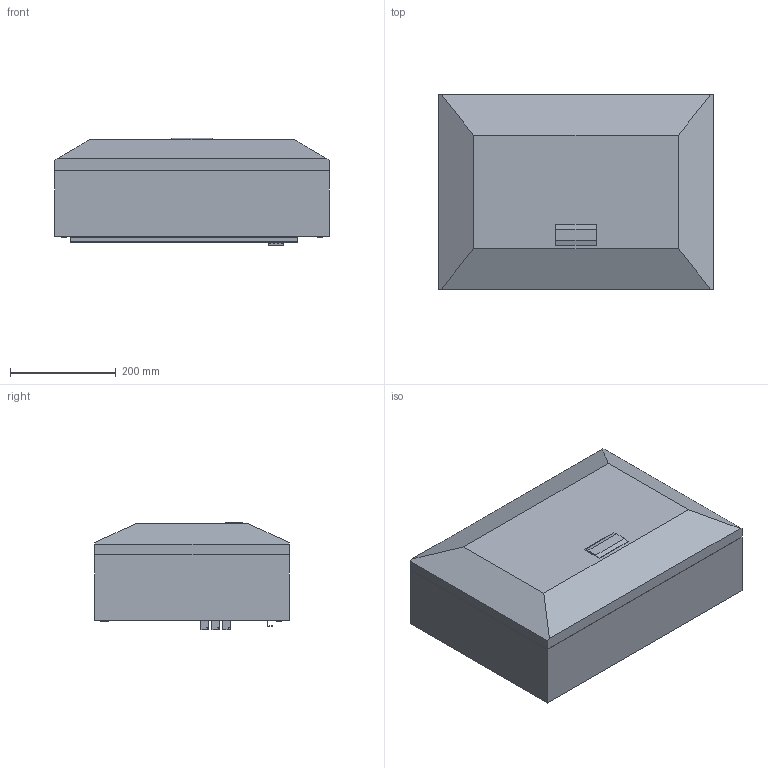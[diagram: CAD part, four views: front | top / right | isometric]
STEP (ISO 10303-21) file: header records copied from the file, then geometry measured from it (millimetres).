
FILE_DESCRIPTION((''),'2;1');
FILE_NAME('KG8505-400V-240222_ASM','2024-02-22T15:52:12',('briang'),(''),'CREO PARAMETRIC BY PTC INC, 2023294','CREO PARAMETRIC BY PTC INC, 2023294','');
FILE_SCHEMA(('CONFIG_CONTROL_DESIGN','SHAPE_APPEARANCE_LAYERS_GROUPS'));
Length unit declared in the file: millimetre
Products named in the file (5): KG8505-400V-BODY-240222_1; KG8505STP-COVER-230901_1; KG8505-MOUNTING-BRCKT_1; KG8505-400V-STP-230901_ASM_1_ASM; KG8505-400V-240222_ASM
Assembly tree (4 placements, depth 3):
  KG8505-400V-240222_ASM
    KG8505-400V-STP-230901_ASM_1_ASM
      KG8505-400V-BODY-240222_1
      KG8505STP-COVER-230901_1
      KG8505-MOUNTING-BRCKT_1
Bounding box: 520 x 368 x 203.95 mm (x, y, z)
Volume: 32606885 mm3; surface area: 1082188.2 mm2
Topology: 3 solids, 3 shells, 245 faces, 569 edges, 374 vertices
Faces by surface type: plane 181, cylinder 64
Entity records: 7156 total; most frequent: DIRECTION 1211, CARTESIAN_POINT 1200, ORIENTED_EDGE 1138, EDGE_CURVE 569, VECTOR 441, LINE 441, AXIS2_PLACEMENT_3D 385, VERTEX_POINT 374
